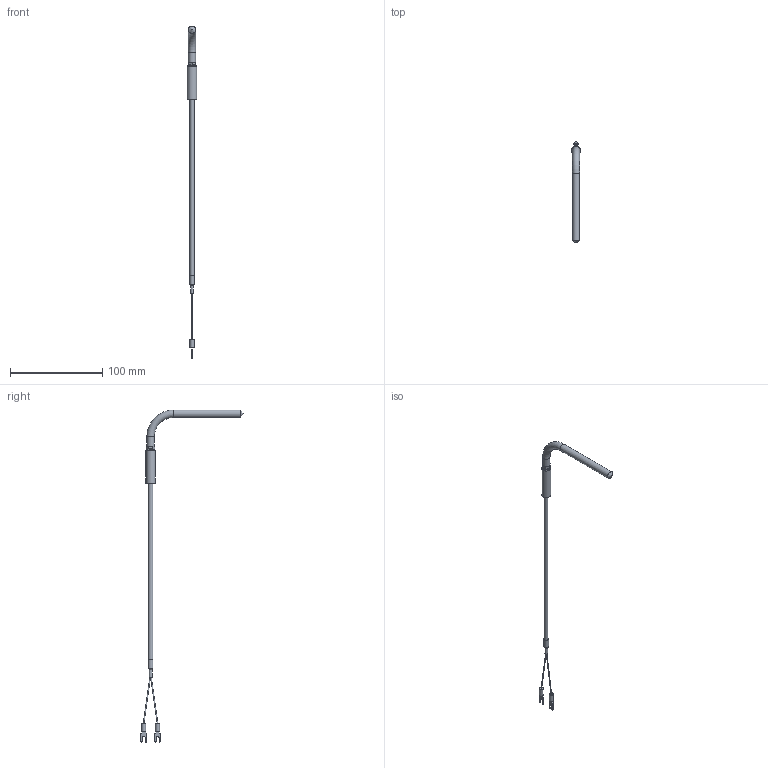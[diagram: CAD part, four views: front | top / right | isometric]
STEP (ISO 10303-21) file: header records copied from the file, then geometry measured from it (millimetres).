
FILE_DESCRIPTION (( 'STEP AP203' ), '1' );
FILE_NAME ('YIT111S-8(0).STEP', '2024-08-02T04:23:45', ( '' ), ( '' ), 'SwSTEP 2.0', 'SolidWorks 2021', '' );
FILE_SCHEMA (( 'CONFIG_CONTROL_DESIGN' ));
Length unit declared in the file: millimetre
Products named in the file (1): YIT111S-8(0)
Bounding box: 10 x 110.43 x 359 mm (x, y, z)
Volume: 13354.1 mm3; surface area: 8362.2 mm2
Topology: 1 solids, 1 shells, 69 faces, 165 edges, 107 vertices
Faces by surface type: plane 35, cylinder 22, bspline 8, torus 2, cone 2
Full cylindrical faces by diameter (mm): 3.16 x1, 4.5 x2, 4.8 x1, 5 x1, 8 x2, 10 x1
Entity records: 2165 total; most frequent: CARTESIAN_POINT 568, DIRECTION 308, ORIENTED_EDGE 294, EDGE_CURVE 147, AXIS2_PLACEMENT_3D 111, VERTEX_POINT 103, EDGE_LOOP 92, VECTOR 86
